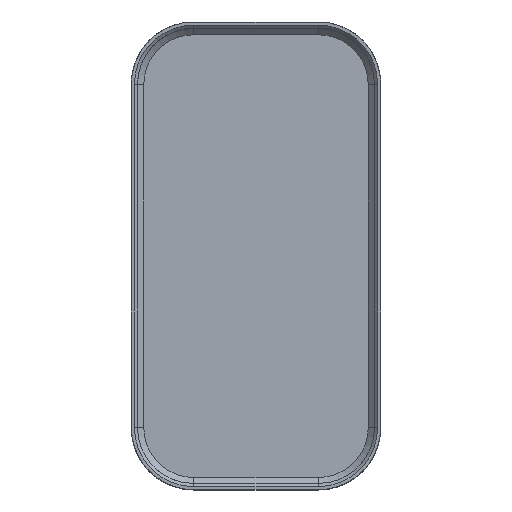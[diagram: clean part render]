
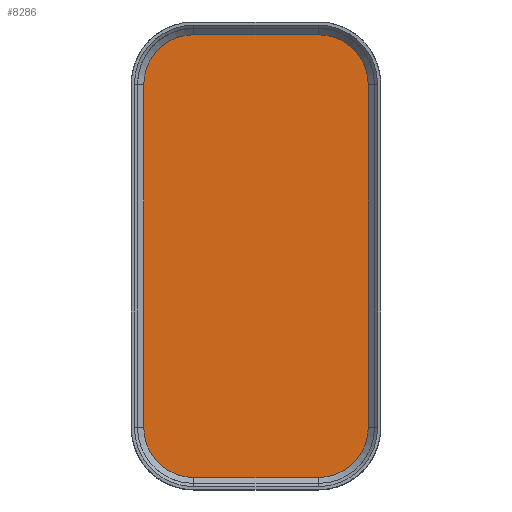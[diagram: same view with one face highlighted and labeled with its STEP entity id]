
A CAD part, top view. The second image highlights one B-rep face of the part: STEP entity #8286.
In plain terms, the highlighted planar face has unit normal (0, 0, 1).
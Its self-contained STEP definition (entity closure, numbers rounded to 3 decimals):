
#1294=CIRCLE('',#8583,16.);
#1296=CIRCLE('',#8587,16.);
#1298=CIRCLE('',#8591,16.);
#1300=CIRCLE('',#8595,16.);
#1686=FACE_OUTER_BOUND('',#2094,.T.);
#2094=EDGE_LOOP('',(#5972,#5973,#5974,#5975,#5976,#5977,#5978,#5979));
#2722=LINE('',#11110,#3080);
#2727=LINE('',#11124,#3085);
#2731=LINE('',#11136,#3089);
#2735=LINE('',#11148,#3093);
#3080=VECTOR('',#9307,10.);
#3085=VECTOR('',#9320,10.);
#3089=VECTOR('',#9332,10.);
#3093=VECTOR('',#9344,10.);
#3438=VERTEX_POINT('',#11107);
#3439=VERTEX_POINT('',#11109);
#3442=VERTEX_POINT('',#11116);
#3444=VERTEX_POINT('',#11122);
#3446=VERTEX_POINT('',#11128);
#3448=VERTEX_POINT('',#11134);
#3450=VERTEX_POINT('',#11140);
#3452=VERTEX_POINT('',#11146);
#4394=EDGE_CURVE('',#3438,#3439,#2722,.T.);
#4398=EDGE_CURVE('',#3442,#3438,#1294,.T.);
#4401=EDGE_CURVE('',#3444,#3442,#2727,.T.);
#4404=EDGE_CURVE('',#3446,#3444,#1296,.T.);
#4407=EDGE_CURVE('',#3448,#3446,#2731,.T.);
#4410=EDGE_CURVE('',#3450,#3448,#1298,.T.);
#4413=EDGE_CURVE('',#3452,#3450,#2735,.T.);
#4415=EDGE_CURVE('',#3439,#3452,#1300,.T.);
#5972=ORIENTED_EDGE('',*,*,#4394,.F.);
#5973=ORIENTED_EDGE('',*,*,#4398,.F.);
#5974=ORIENTED_EDGE('',*,*,#4401,.F.);
#5975=ORIENTED_EDGE('',*,*,#4404,.F.);
#5976=ORIENTED_EDGE('',*,*,#4407,.F.);
#5977=ORIENTED_EDGE('',*,*,#4410,.F.);
#5978=ORIENTED_EDGE('',*,*,#4413,.F.);
#5979=ORIENTED_EDGE('',*,*,#4415,.F.);
#8257=PLANE('',#8703);
#8286=ADVANCED_FACE('',(#1686),#8257,.T.);
#8583=AXIS2_PLACEMENT_3D('',#11118,#9313,#9314);
#8587=AXIS2_PLACEMENT_3D('',#11130,#9325,#9326);
#8591=AXIS2_PLACEMENT_3D('',#11142,#9337,#9338);
#8595=AXIS2_PLACEMENT_3D('',#11151,#9348,#9349);
#8703=AXIS2_PLACEMENT_3D('',#12938,#9583,#9584);
#9307=DIRECTION('',(1.,0.,0.));
#9313=DIRECTION('center_axis',(0.,0.,-1.));
#9314=DIRECTION('ref_axis',(0.,1.,0.));
#9320=DIRECTION('',(0.,1.,0.));
#9325=DIRECTION('center_axis',(0.,0.,-1.));
#9326=DIRECTION('ref_axis',(-1.,0.,0.));
#9332=DIRECTION('',(-1.,0.,0.));
#9337=DIRECTION('center_axis',(0.,0.,-1.));
#9338=DIRECTION('ref_axis',(0.,-1.,0.));
#9344=DIRECTION('',(0.,-1.,0.));
#9348=DIRECTION('center_axis',(0.,0.,-1.));
#9349=DIRECTION('ref_axis',(1.,0.,0.));
#9583=DIRECTION('center_axis',(0.,0.,1.));
#9584=DIRECTION('ref_axis',(1.,0.,0.));
#11107=CARTESIAN_POINT('',(-20.,71.,2.));
#11109=CARTESIAN_POINT('',(20.,71.,2.));
#11110=CARTESIAN_POINT('',(10.,71.,2.));
#11116=CARTESIAN_POINT('',(-36.,55.,2.));
#11118=CARTESIAN_POINT('Origin',(-20.,55.,2.));
#11122=CARTESIAN_POINT('',(-36.,-55.,2.));
#11124=CARTESIAN_POINT('',(-36.,27.5,2.));
#11128=CARTESIAN_POINT('',(-20.,-71.,2.));
#11130=CARTESIAN_POINT('Origin',(-20.,-55.,2.));
#11134=CARTESIAN_POINT('',(20.,-71.,2.));
#11136=CARTESIAN_POINT('',(-10.,-71.,2.));
#11140=CARTESIAN_POINT('',(36.,-55.,2.));
#11142=CARTESIAN_POINT('Origin',(20.,-55.,2.));
#11146=CARTESIAN_POINT('',(36.,55.,2.));
#11148=CARTESIAN_POINT('',(36.,-27.5,2.));
#11151=CARTESIAN_POINT('Origin',(20.,55.,2.));
#12938=CARTESIAN_POINT('Origin',(0.,0.,
2.));
